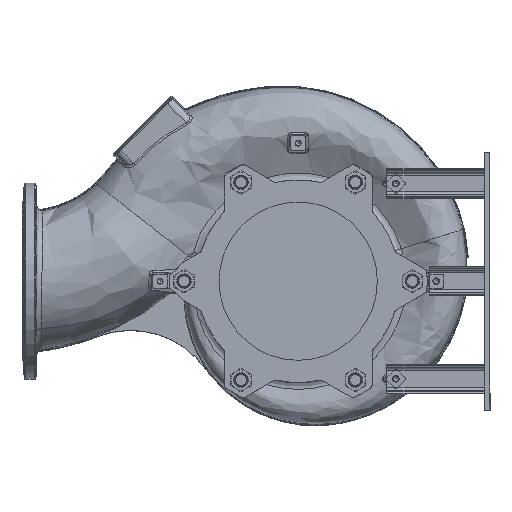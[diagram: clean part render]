
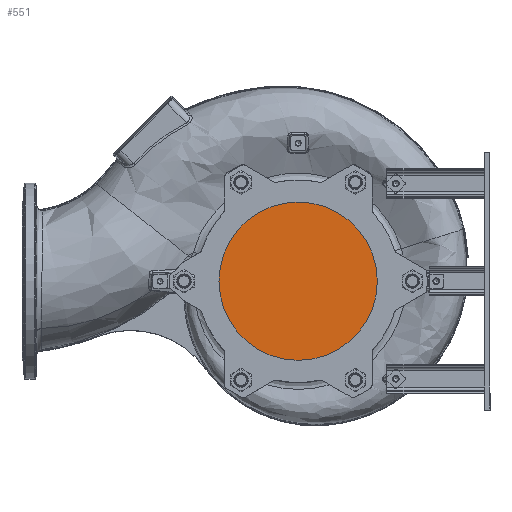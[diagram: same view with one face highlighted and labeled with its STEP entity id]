
A CAD part, front view. The second image highlights one B-rep face of the part: STEP entity #551.
In plain terms, the highlighted planar face has unit normal (0, -1, 0).
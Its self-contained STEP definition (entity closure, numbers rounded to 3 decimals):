
#551 = ADVANCED_FACE ( 'NONE', ( #118680 ), #58140, .T. ) ;
#6833 = VERTEX_POINT ( 'NONE', #78404 ) ;
#10291 = DIRECTION ( 'NONE',  ( 0., -1., 0. ) ) ;
#10850 = CARTESIAN_POINT ( 'NONE',  ( 240.462, -251., 0. ) ) ;
#11415 = DIRECTION ( 'NONE',  ( 1., 0., 0. ) ) ;
#14307 = ORIENTED_EDGE ( 'NONE', *, *, #92493, .T. ) ;
#19429 = DIRECTION ( 'NONE',  ( 1., 0., 0. ) ) ;
#31815 = DIRECTION ( 'NONE',  ( 0., -1., 0. ) ) ;
#58140 = PLANE ( 'NONE',  #156730 ) ;
#65758 = EDGE_LOOP ( 'NONE', ( #14307 ) ) ;
#78404 = CARTESIAN_POINT ( 'NONE',  ( 455.462, -251., 0. ) ) ;
#92493 = EDGE_CURVE ( 'NONE', #6833, #6833, #116088, .T. ) ;
#109169 = CARTESIAN_POINT ( 'NONE',  ( 240.462, -251., 0. ) ) ;
#116088 = CIRCLE ( 'NONE', #144156, 215. ) ;
#118680 = FACE_OUTER_BOUND ( 'NONE', #65758, .T. ) ;
#144156 = AXIS2_PLACEMENT_3D ( 'NONE', #10850, #10291, #11415 ) ;
#156730 = AXIS2_PLACEMENT_3D ( 'NONE', #109169, #31815, #19429 ) ;
